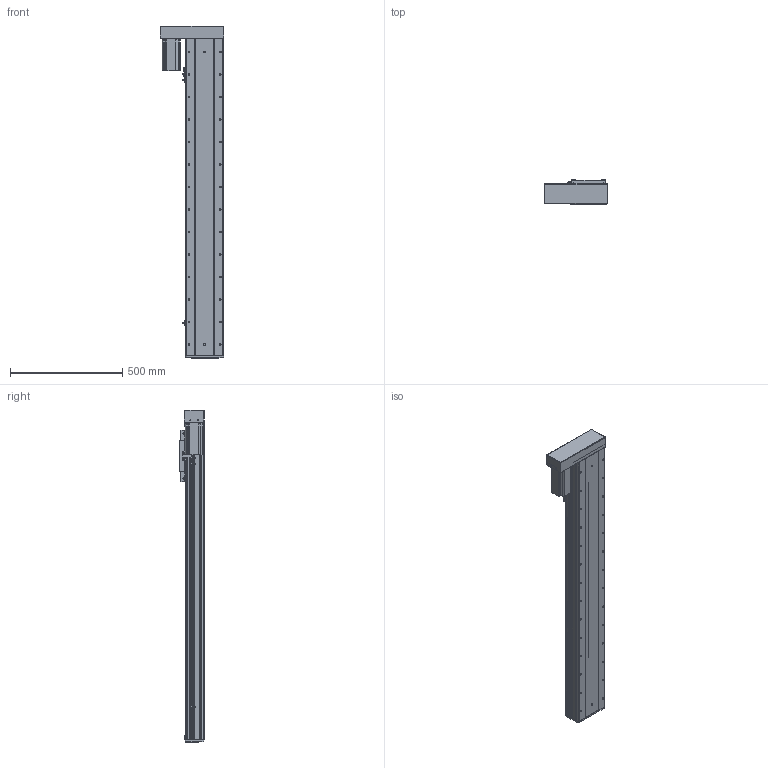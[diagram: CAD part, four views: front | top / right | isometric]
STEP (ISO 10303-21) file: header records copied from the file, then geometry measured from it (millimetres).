
FILE_DESCRIPTION (( 'STEP AP203' ), '1' );
FILE_NAME ('RY170F-L2020-300-LK.SLDASM_1100.step', '2021-03-02T09:00:59', ( '盈信电脑' ), ( '东莞市道滘镇水果街19号' ), 'SwSTEP 2.0', 'SolidWorks 2012', '' );
FILE_SCHEMA (( 'CONFIG_CONTROL_DESIGN' ));
Length unit declared in the file: millimetre
Products named in the file (20): RY170F酘衵殏萇儂欶; RY170F-L2020-300-LK.SLDASM_1100; RY170F-酘衵殏萇儂釱; 怢湛750W萇儂ㄗ80遺ㄘ; 侐源滅袉蝶; RY170F-蛌殏萇儂假蚾啣; RY170F-揤踡謫假蚾粣; RY170F俋离覜茼え; 滅袉蝶18-24; RY170F-詩湍揤踡輸; 覜茼ん672; RY170F-綴裔啣; 滅袉蝶18-10; RY100F-詩湍揤踡謫; RY170F-300眻蟀倰第奻裔啣-LK_1100; RY170F-佪裝臏賑輸20蹟譫; RY170F-丝杆铝滑块连接板; RY170F-滅鳥奻裔; RY170F-300眻蟀祥凄詩湍-LK_1100; RY170F-300眻蟀倰第菁釱-LK_1100
Assembly tree (24 placements, depth 2):
  RY170F-L2020-300-LK.SLDASM_1100
    RY170F-滅鳥奻裔
    RY170F-300眻蟀祥凄詩湍-LK_1100
    RY170F-300眻蟀倰第菁釱-LK_1100
    RY170F-佪裝臏賑輸20蹟譫
    RY170F-丝杆铝滑块连接板
    RY170F-300眻蟀倰第奻裔啣-LK_1100  x2
    滅袉蝶18-10
    RY100F-詩湍揤踡謫
    RY170F-綴裔啣
    覜茼ん672  x3
    RY170F俋离覜茼え
    RY170F-揤踡謫假蚾粣
    RY170F-詩湍揤踡輸  x2
    滅袉蝶18-24
    侐源滅袉蝶  x2
    RY170F-酘衵殏萇儂釱
    RY170F-蛌殏萇儂假蚾啣
    怢湛750W萇儂ㄗ80遺ㄘ
    RY170F酘衵殏萇儂欶
Bounding box: 283 x 107 x 1476 mm (x, y, z)
Volume: 8259426.6 mm3; surface area: 2739332.5 mm2
Topology: 24 solids, 24 shells, 1929 faces, 5334 edges, 3364 vertices
Faces by surface type: cylinder 925, plane 760, cone 236, bspline 8
Entity records: 55303 total; most frequent: CARTESIAN_POINT 11064, DIRECTION 9027, ORIENTED_EDGE 8544, EDGE_CURVE 4272, AXIS2_PLACEMENT_3D 3277, VERTEX_POINT 2784, LINE 2473, VECTOR 2473
